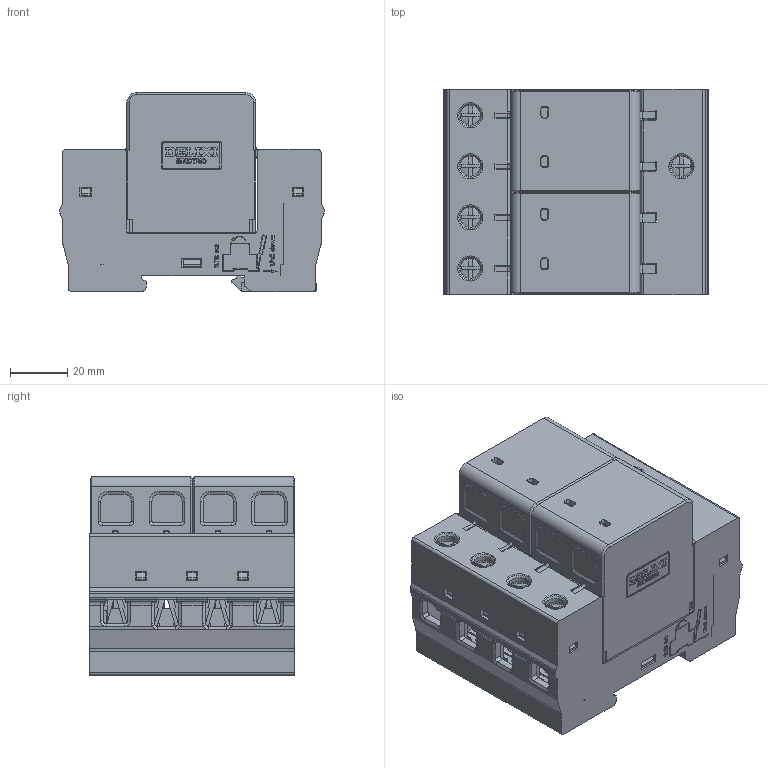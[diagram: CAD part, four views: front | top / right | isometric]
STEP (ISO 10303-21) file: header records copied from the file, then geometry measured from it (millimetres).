
FILE_DESCRIPTION((''),'2;1');
FILE_NAME('2P120_ASM','2024-01-17T',('linxiao.guan'),(''),'PRO/ENGINEER BY PARAMETRIC TECHNOLOGY CORPORATION, 2015440','PRO/ENGINEER BY PARAMETRIC TECHNOLOGY CORPORATION, 2015440','');
FILE_SCHEMA(('CONFIG_CONTROL_DESIGN'));
Products named in the file (35): MANIFOLD_SOLID_BREP_152671_AF0; MANIFOLD_SOLID_BREP_153100_AF0; MANIFOLD_SOLID_BREP_153496_AF0; MANIFOLD_SOLID_BREP_153681; MANIFOLD_SOLID_BREP_154110_AF0; MANIFOLD_SOLID_BREP_154508_AF0; MANIFOLD_SOLID_BREP_154904_AF0; MANIFOLD_SOLID_BREP_155337; MANIFOLD_SOLID_BREP_155774; MANIFOLD_SOLID_BREP_156211; MANIFOLD_SOLID_BREP_156648; MANIFOLD_SOLID_BREP_157085; MANIFOLD_SOLID_BREP_157522; MANIFOLD_SOLID_BREP_157959; MANIFOLD_SOLID_BREP_158396; MANIFOLD_SOLID_BREP_159239; MANIFOLD_SOLID_BREP_160081; MANIFOLD_SOLID_BREP_161037; MANIFOLD_SOLID_BREP_161880; MANIFOLD_SOLID_BREP_162154; MANIFOLD_SOLID_BREP_162447; MANIFOLD_SOLID_BREP_162704; MANIFOLD_SOLID_BREP_162960; MANIFOLD_SOLID_BREP_163048; MANIFOLD_SOLID_BREP_163136; MANIFOLD_SOLID_BREP_163224; MANIFOLD_SOLID_BREP_164067; MANIFOLD_SOLID_BREP_165181; MANIFOLD_SOLID_BREP_166024; MANIFOLD_SOLID_BREP_166867; MANIFOLD_SOLID_BREP_167105; MANIFOLD_SOLID_BREP_167343; 2P120_ASM_SW0001_1_AF0_ASM; 8005034000_1; 2P120_ASM
Assembly tree (35 placements, depth 3):
  2P120_ASM
    2P120_ASM_SW0001_1_AF0_ASM
      MANIFOLD_SOLID_BREP_152671_AF0
      MANIFOLD_SOLID_BREP_153100_AF0
      MANIFOLD_SOLID_BREP_153496_AF0
      MANIFOLD_SOLID_BREP_153681
      MANIFOLD_SOLID_BREP_154110_AF0
      MANIFOLD_SOLID_BREP_154508_AF0
      MANIFOLD_SOLID_BREP_154904_AF0
      MANIFOLD_SOLID_BREP_155337
      MANIFOLD_SOLID_BREP_155774
      MANIFOLD_SOLID_BREP_156211
      MANIFOLD_SOLID_BREP_156648
      MANIFOLD_SOLID_BREP_157085
      MANIFOLD_SOLID_BREP_157522
      MANIFOLD_SOLID_BREP_157959
      MANIFOLD_SOLID_BREP_158396
      MANIFOLD_SOLID_BREP_159239
      MANIFOLD_SOLID_BREP_160081
      MANIFOLD_SOLID_BREP_161037
      MANIFOLD_SOLID_BREP_161880
      MANIFOLD_SOLID_BREP_162154
      MANIFOLD_SOLID_BREP_162447
      MANIFOLD_SOLID_BREP_162704
      MANIFOLD_SOLID_BREP_162960
      MANIFOLD_SOLID_BREP_163048
      MANIFOLD_SOLID_BREP_163136
      MANIFOLD_SOLID_BREP_163224
      MANIFOLD_SOLID_BREP_164067
      MANIFOLD_SOLID_BREP_165181
      MANIFOLD_SOLID_BREP_166024
      MANIFOLD_SOLID_BREP_166867
      MANIFOLD_SOLID_BREP_167105
      MANIFOLD_SOLID_BREP_167343
    8005034000_1  x2
Bounding box: 92 x 71.6 x 69.35 mm (x, y, z)
Volume: 99672.9 mm3; surface area: 124868.2 mm2
Topology: 34 solids, 34 shells, 5417 faces, 15600 edges, 10319 vertices
Faces by surface type: plane 4683, cylinder 557, cone 86, torus 46, bspline 25, sphere 20
Entity records: 156030 total; most frequent: CARTESIAN_POINT 33142, ORIENTED_EDGE 26692, DIRECTION 23552, EDGE_CURVE 13346, VECTOR 11654, LINE 11654, VERTEX_POINT 8835, AXIS2_PLACEMENT_3D 5949
